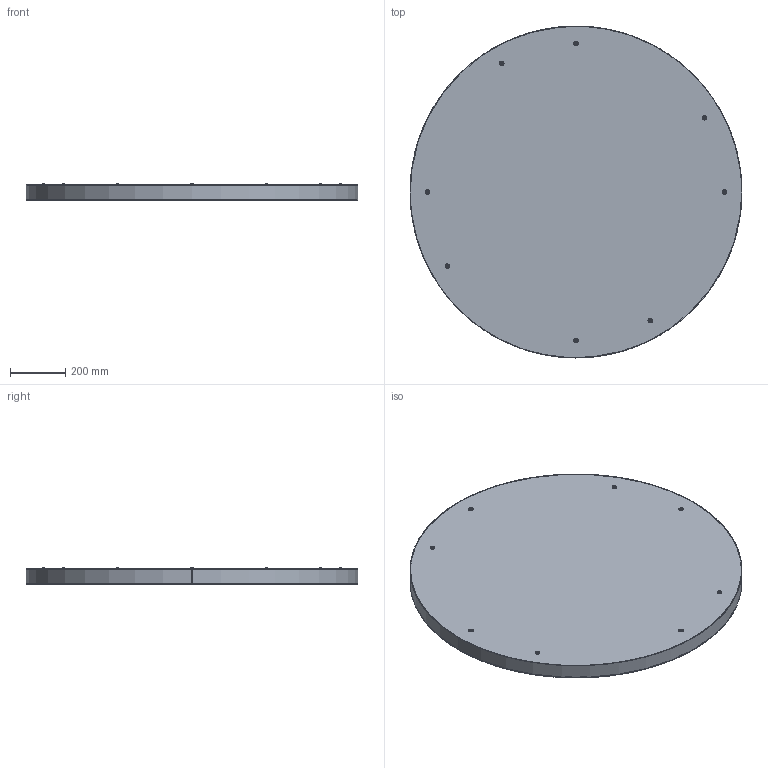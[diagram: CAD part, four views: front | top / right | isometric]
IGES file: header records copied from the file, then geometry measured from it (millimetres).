
Start section: SolidWorks IGES file using analytic representation for surfaces
Global section: file name: \\srvficheros\grupos\DISENYO\DESARROLLO DE PRODUCTO\_3D_WEB\LONDON-P3760672\LONDON-P3760672.IGS; native system: SolidWorks 2025; preprocessor: SolidWorks 2025; author: d.pons; date: 260114.115017; units: millimetre
Bounding box: 1200 x 1200 x 58 mm (x, y, z)
Surface area: 4942843.1 mm2 (no closed solid volume)
Topology: 0 solids, 0 shells, 146 faces, 2384 edges, 2384 vertices
Faces by surface type: bspline 90, revolution 56
